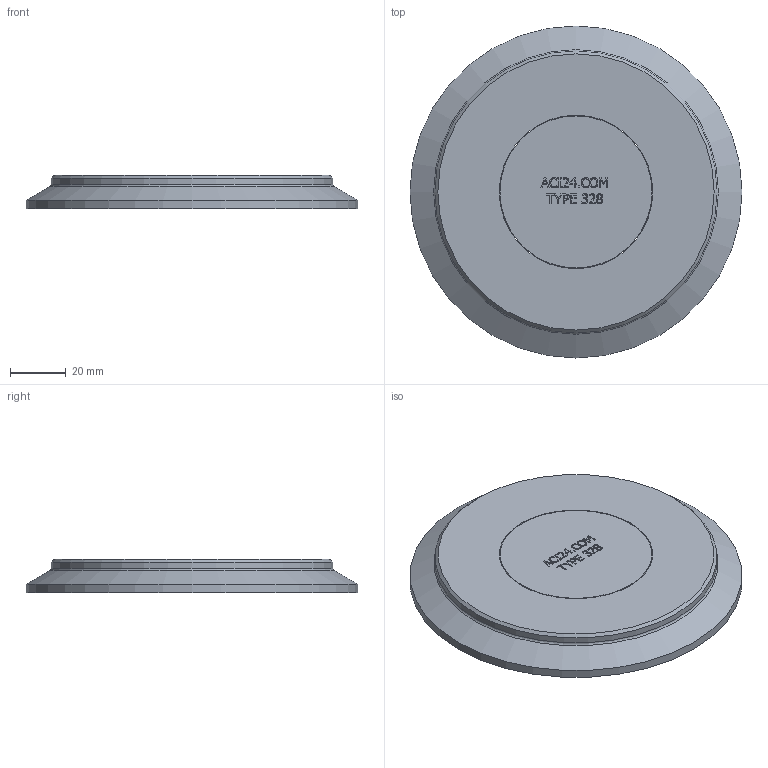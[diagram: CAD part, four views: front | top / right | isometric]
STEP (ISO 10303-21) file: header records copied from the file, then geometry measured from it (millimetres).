
FILE_DESCRIPTION(/* description */ ('ACI Typ 328 DN 100 PN 10'),/* implementation_level */ '2;1');
FILE_NAME(/* name */ 'C:\Users\willms\Desktop\ACI-328-100-10.stp',/* time_stamp */ '2020-09-01T16:15:01+02:00',/* author */ ('götz'),/* organization */ ('ACI Industriearmaturen GmbH info@aci24.com www.aci24.com'),/* preprocessor_version */ 'ST-DEVELOPER v16.1',/* originating_system */ 'Autodesk Inventor 2016',/* authorisation */ 'ACI Industriearmaturen GmbH info@aci24.com www.aci24.com');
FILE_SCHEMA (('CONFIG_CONTROL_DESIGN'));
Length unit declared in the file: centimetre
Products named in the file (1): ACI-328-100-10
Bounding box: 119 x 119 x 12 mm (x, y, z)
Volume: 111954.1 mm3; surface area: 29618.4 mm2
Topology: 2 solids, 2 shells, 270 faces, 725 edges, 482 vertices
Faces by surface type: plane 147, bspline 114, cylinder 4, cone 4, torus 1
Full cylindrical faces by diameter (mm): 54.5 x1, 55 x1, 101 x1, 119 x1
Entity records: 8972 total; most frequent: CARTESIAN_POINT 2951, ORIENTED_EDGE 1432, DIRECTION 816, EDGE_CURVE 716, VERTEX_POINT 482, LINE 474, VECTOR 474, EDGE_LOOP 304
